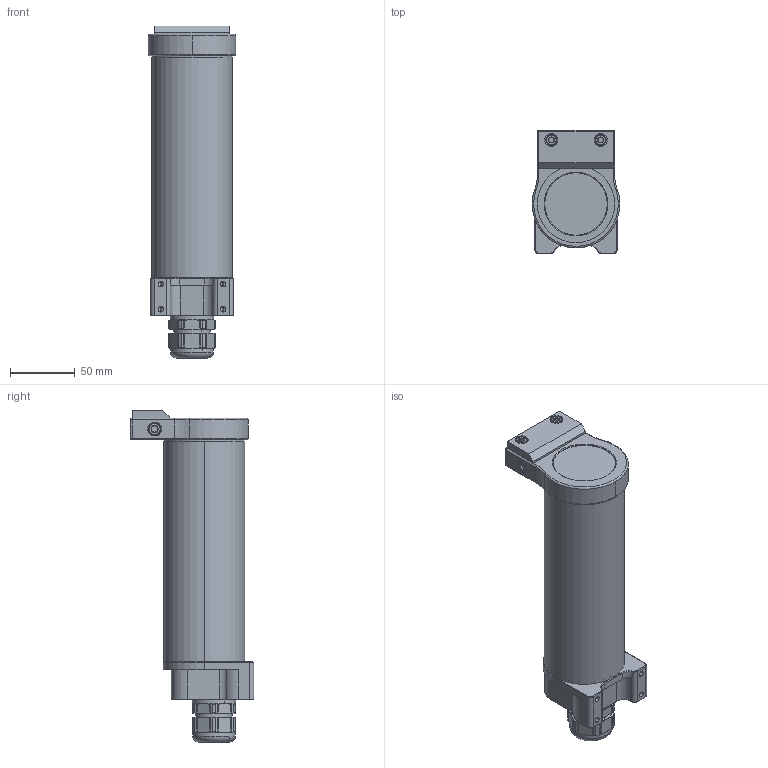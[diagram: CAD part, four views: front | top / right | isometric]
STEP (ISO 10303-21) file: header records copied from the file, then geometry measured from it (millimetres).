
FILE_DESCRIPTION (( 'STEP AP203' ), '1' );
FILE_NAME ('24C-DR.STEP', '2022-04-29T14:58:45', ( '' ), ( '' ), 'SwSTEP 2.0', 'SolidWorks 2021', '' );
FILE_SCHEMA (( 'CONFIG_CONTROL_DESIGN' ));
Length unit declared in the file: inch
Products named in the file (18): 200428; PG21-B01; 500119; PG21-N03; PG21-01-01-01-03; PG21-I01; 9452K141_Expanded; PG21-S01; 24C-DR; 400118; 200394; 200317; 91292A125_91292A125; 200393; 400119; 200395; 91292A108_91292A108; 4452K541
Assembly tree (22 placements, depth 3):
  24C-DR
    200317
    200393
    200394
    200395
    200428
    400118
    400119
    500119
    4452K541  x3
    9452K141_Expanded
    91292A108_91292A108  x3
    PG21-01-01-01-03
      PG21-B01
      PG21-I01
      PG21-S01
      PG21-N03
    91292A125_91292A125  x2
Bounding box: 67.82 x 95.12 x 256.2 mm (x, y, z)
Volume: 238890 mm3; surface area: 155773.5 mm2
Topology: 22 solids, 22 shells, 1296 faces, 3484 edges, 2242 vertices
Faces by surface type: cylinder 660, plane 324, cone 274, bspline 19, torus 15, sphere 4
Entity records: 37848 total; most frequent: CARTESIAN_POINT 12033, ORIENTED_EDGE 5120, DIRECTION 4944, EDGE_CURVE 2560, AXIS2_PLACEMENT_3D 1922, VERTEX_POINT 1642, LINE 1100, VECTOR 1100
